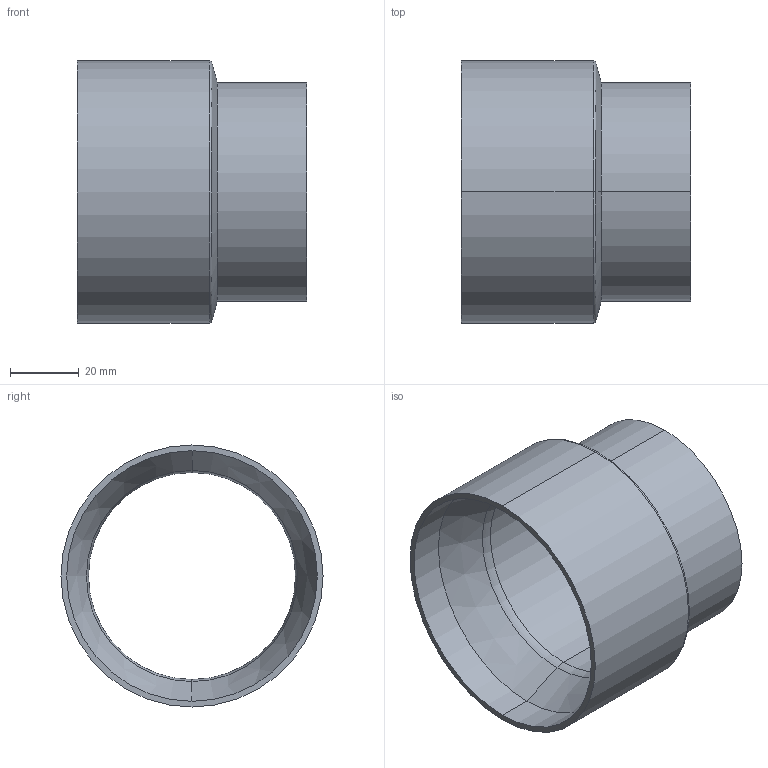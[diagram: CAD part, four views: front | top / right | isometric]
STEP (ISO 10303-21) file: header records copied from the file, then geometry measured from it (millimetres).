
FILE_DESCRIPTION (( 'STEP AP214' ), '1' );
FILE_NAME ('TE31SWW6L3.0x2.5-...STEP', '2016-05-29T10:01:21', ( 'eran' ), ( '' ), 'SwSTEP 2.0', 'SolidWorks 2016', '' );
FILE_SCHEMA (( 'AUTOMOTIVE_DESIGN' ));
Length unit declared in the file: millimetre
Products named in the file (1): TE31SWW6L3.0x2.5-..
Bounding box: 66.67 x 76.2 x 76.2 mm (x, y, z)
Volume: 54761.2 mm3; surface area: 30190 mm2
Topology: 1 solids, 1 shells, 18 faces, 36 edges, 20 vertices
Faces by surface type: cylinder 8, torus 4, cone 4, plane 2
Entity records: 506 total; most frequent: DIRECTION 98, CARTESIAN_POINT 75, ORIENTED_EDGE 72, AXIS2_PLACEMENT_3D 43, EDGE_CURVE 36, CIRCLE 24, VERTEX_POINT 20, EDGE_LOOP 20
